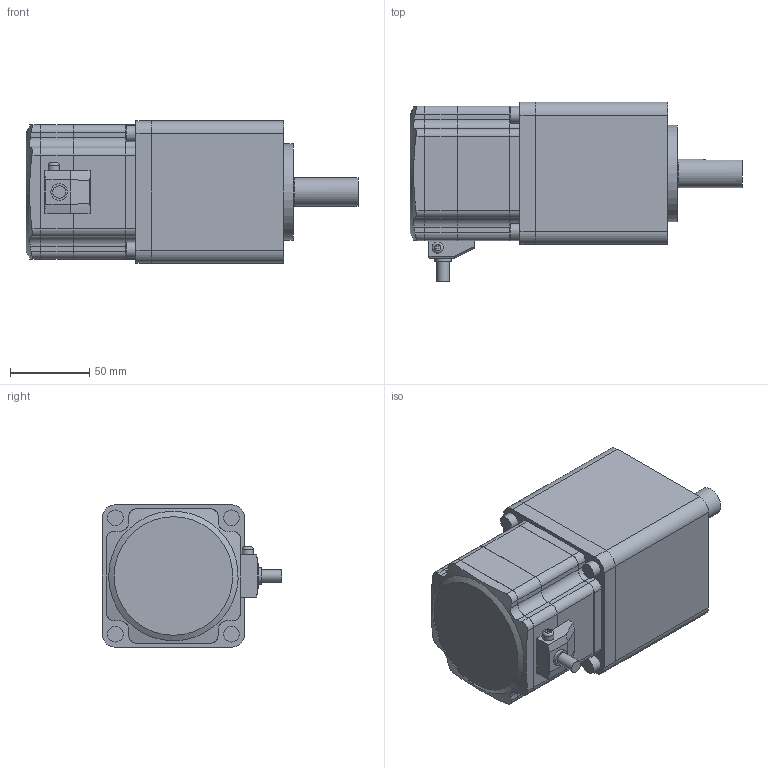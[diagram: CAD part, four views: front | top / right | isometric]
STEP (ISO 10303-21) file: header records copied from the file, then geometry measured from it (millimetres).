
FILE_DESCRIPTION(/* description */ ('STEP AP203'),/* implementation_level */ '2;1');
FILE_NAME(/* name */ 'ARM98AC-N25',/* time_stamp */ '2026-03-04T06:55:17+01:00',/* author */ ('License CC BY-ND 4.0'),/* organization */ ('CADENAS'),/* preprocessor_version */ 'ST-DEVELOPER v20',/* originating_system */ 'PARTsolutions',/* authorisation */ ' ');
FILE_SCHEMA (('CONFIG_CONTROL_DESIGN'));
Length unit declared in the file: millimetre
Products named in the file (3): ARM98AC-N25; AR98AC-25-PN-Gearhead ; AR98AC-25-PN-Motor 
Assembly tree (2 placements, depth 2):
  ARM98AC-N25
    AR98AC-25-PN-Gearhead 
    AR98AC-25-PN-Motor 
Bounding box: 210 x 113.5 x 90 mm (x, y, z)
Volume: 1227152 mm3; surface area: 92986.2 mm2
Topology: 2 solids, 2 shells, 263 faces, 714 edges, 472 vertices
Faces by surface type: plane 137, cylinder 112, cone 12, sphere 1, torus 1
Full cylindrical faces by diameter (mm): 6.647 x4, 7 x1, 8 x1, 10 x4, 10.5 x1, 18 x1, 51 x1, 61 x1, 82 x1
Entity records: 8240 total; most frequent: CARTESIAN_POINT 1523, DIRECTION 1416, ORIENTED_EDGE 1352, EDGE_CURVE 676, AXIS2_PLACEMENT_3D 495, VERTEX_POINT 465, LINE 426, VECTOR 426
